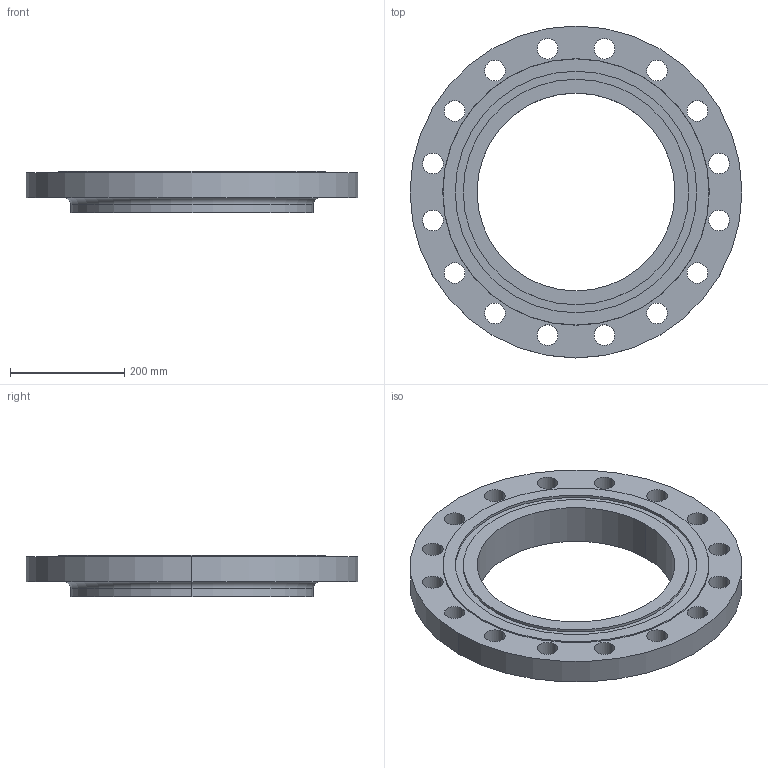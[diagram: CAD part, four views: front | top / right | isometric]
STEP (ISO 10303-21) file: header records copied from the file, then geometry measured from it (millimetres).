
FILE_DESCRIPTION (( 'STEP AP214' ), '1' );
FILE_NAME ('PN40 DN350 Type 13 - Type D Face.STEP', '2019-01-05T21:48:35', ( '' ), ( '' ), 'SwSTEP 2.0', 'SolidWorks 2019', '' );
FILE_SCHEMA (( 'AUTOMOTIVE_DESIGN' ));
Length unit declared in the file: millimetre
Products named in the file (1): PN40 DN350 Type 13 - Type D Face
Bounding box: 580 x 580 x 72 mm (x, y, z)
Volume: 8114901.8 mm3; surface area: 589243.2 mm2
Topology: 1 solids, 1 shells, 52 faces, 136 edges, 90 vertices
Faces by surface type: cylinder 42, plane 6, torus 2, cone 2
Entity records: 1758 total; most frequent: DIRECTION 334, CARTESIAN_POINT 279, ORIENTED_EDGE 272, AXIS2_PLACEMENT_3D 145, EDGE_CURVE 136, CIRCLE 92, VERTEX_POINT 90, EDGE_LOOP 90
